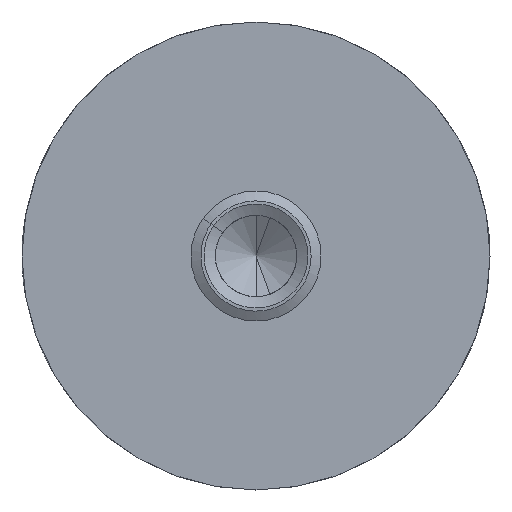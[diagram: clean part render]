
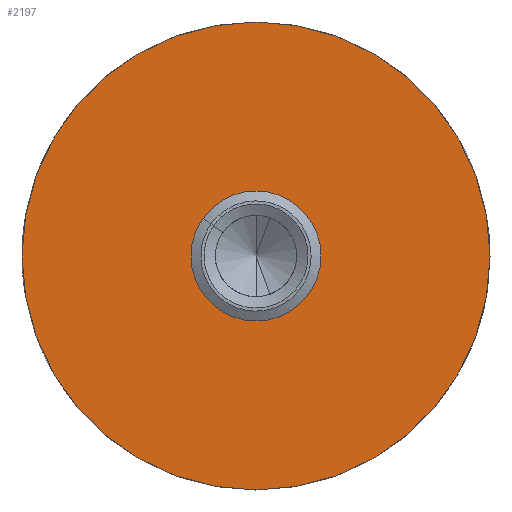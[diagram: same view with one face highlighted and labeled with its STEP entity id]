
A CAD part, left-side view. The second image highlights one B-rep face of the part: STEP entity #2197.
In plain terms, the highlighted planar face has unit normal (-1, 0, 0).
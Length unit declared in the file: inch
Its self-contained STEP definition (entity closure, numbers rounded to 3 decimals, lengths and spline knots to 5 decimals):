
#192 = AXIS2_PLACEMENT_3D ( 'NONE', #794, #2109, #565 ) ;
#244 = AXIS2_PLACEMENT_3D ( 'NONE', #1058, #2351, #804 ) ;
#260 = PLANE ( 'NONE',  #2478 ) ;
#304 = AXIS2_PLACEMENT_3D ( 'NONE', #977, #2301, #761 ) ;
#390 = AXIS2_PLACEMENT_3D ( 'NONE', #2138, #586, #1919 ) ;
#565 = DIRECTION ( 'NONE',  ( 0., 0., 1. ) ) ;
#586 = DIRECTION ( 'NONE',  ( 1., 0., 0. ) ) ;
#761 = DIRECTION ( 'NONE',  ( 0., 0., 1. ) ) ;
#782 = CIRCLE ( 'NONE', #192, 0.15625 ) ;
#793 = EDGE_CURVE ( 'NONE', #1999, #1766, #1040, .T. ) ;
#794 = CARTESIAN_POINT ( 'NONE',  ( -0.625, 0., 0. ) ) ;
#796 = CIRCLE ( 'NONE', #244, 0.5625 ) ;
#804 = DIRECTION ( 'NONE',  ( 0., 0., -1. ) ) ;
#939 = CIRCLE ( 'NONE', #304, 0.15625 ) ;
#947 = EDGE_CURVE ( 'NONE', #1755, #1663, #939, .T. ) ;
#977 = CARTESIAN_POINT ( 'NONE',  ( -0.625, 0., 0. ) ) ;
#1040 = CIRCLE ( 'NONE', #390, 0.5625 ) ;
#1058 = CARTESIAN_POINT ( 'NONE',  ( -0.625, 0., 0. ) ) ;
#1078 = EDGE_CURVE ( 'NONE', #1766, #1999, #796, .T. ) ;
#1119 = EDGE_CURVE ( 'NONE', #1663, #1755, #782, .T. ) ;
#1123 = CARTESIAN_POINT ( 'NONE',  ( -0.625, 0., 0. ) ) ;
#1235 = FACE_OUTER_BOUND ( 'NONE', #2876, .T. ) ;
#1243 = FACE_BOUND ( 'NONE', #1890, .T. ) ;
#1663 = VERTEX_POINT ( 'NONE', #1889 ) ;
#1696 = ORIENTED_EDGE ( 'NONE', *, *, #1078, .F. ) ;
#1755 = VERTEX_POINT ( 'NONE', #1917 ) ;
#1762 = ORIENTED_EDGE ( 'NONE', *, *, #947, .F. ) ;
#1766 = VERTEX_POINT ( 'NONE', #1963 ) ;
#1877 = CARTESIAN_POINT ( 'NONE',  ( -0.625, 0., -0.5625 ) ) ;
#1889 = CARTESIAN_POINT ( 'NONE',  ( -0.625, 0., 0.15625 ) ) ;
#1890 = EDGE_LOOP ( 'NONE', ( #2534, #1762 ) ) ;
#1917 = CARTESIAN_POINT ( 'NONE',  ( -0.625, 0., -0.15625 ) ) ;
#1919 = DIRECTION ( 'NONE',  ( 0., 0., -1. ) ) ;
#1963 = CARTESIAN_POINT ( 'NONE',  ( -0.625, 0., 0.5625 ) ) ;
#1999 = VERTEX_POINT ( 'NONE', #1877 ) ;
#2109 = DIRECTION ( 'NONE',  ( -1., 0., 0. ) ) ;
#2138 = CARTESIAN_POINT ( 'NONE',  ( -0.625, 0., 0. ) ) ;
#2197 = ADVANCED_FACE ( 'NONE', ( #1243, #1235 ), #260, .T. ) ;
#2301 = DIRECTION ( 'NONE',  ( -1., 0., 0. ) ) ;
#2351 = DIRECTION ( 'NONE',  ( 1., 0., 0. ) ) ;
#2469 = DIRECTION ( 'NONE',  ( 0., 0., 1. ) ) ;
#2478 = AXIS2_PLACEMENT_3D ( 'NONE', #1123, #2710, #2469 ) ;
#2534 = ORIENTED_EDGE ( 'NONE', *, *, #1119, .F. ) ;
#2710 = DIRECTION ( 'NONE',  ( -1., 0., 0. ) ) ;
#2852 = ORIENTED_EDGE ( 'NONE', *, *, #793, .F. ) ;
#2876 = EDGE_LOOP ( 'NONE', ( #1696, #2852 ) ) ;
